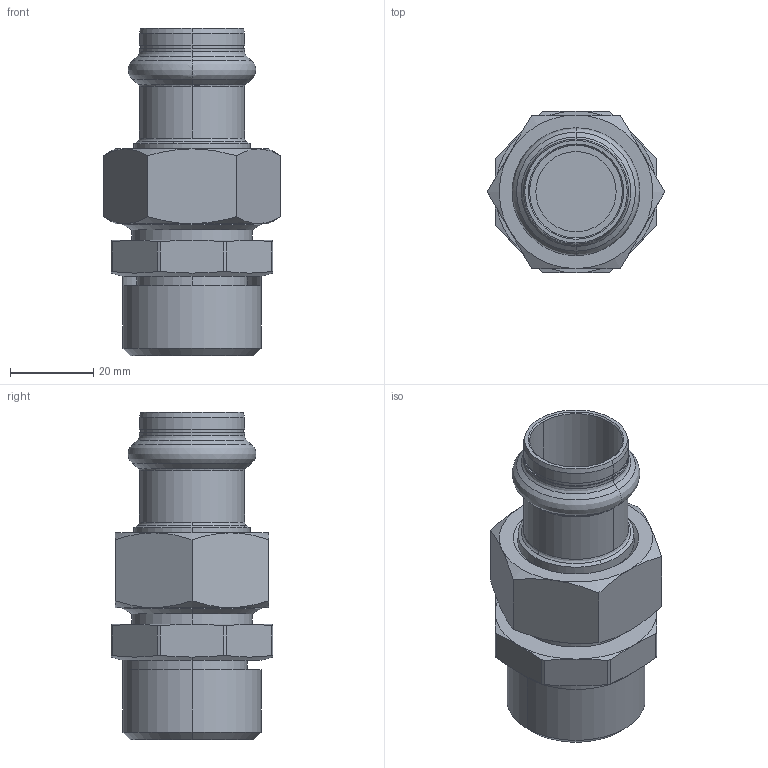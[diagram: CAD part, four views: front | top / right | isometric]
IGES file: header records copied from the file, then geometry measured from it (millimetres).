
Start section: Elysium IGES Interface
Global section: file name: F:\3d modellen sudo\S-Pr VP\SP6331GV\6331GVW221.igs; native system: CoCreate Modeling 17.00A  17-Jun-2010; preprocessor: CoCreate IGES_3D V2.2; author: Unknown; organization: Unknown; date: 20130128.161458; units: millimetre
Bounding box: 42.72 x 39 x 78.8 mm (x, y, z)
Volume: 34833.9 mm3; surface area: 22900 mm2
Topology: 3 solids, 4 shells, 140 faces, 326 edges, 194 vertices
Faces by surface type: bspline 140
